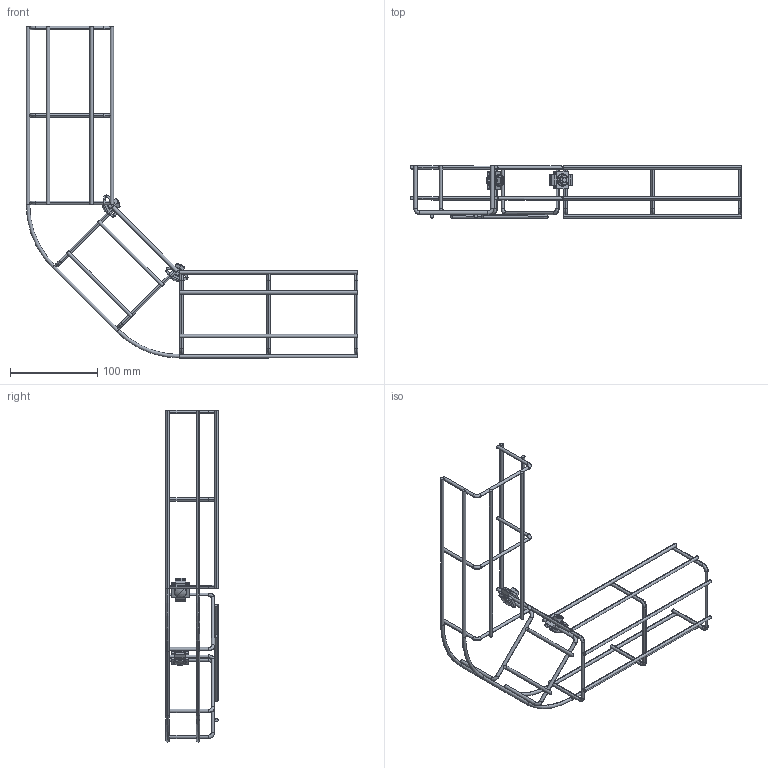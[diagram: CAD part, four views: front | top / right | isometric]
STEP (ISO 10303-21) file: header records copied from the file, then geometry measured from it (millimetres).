
FILE_DESCRIPTION (( 'STEP AP214' ), '1' );
FILE_NAME ('091-1.STEP', '2016-10-14T10:15:36', ( '' ), ( '' ), 'SwSTEP 2.0', 'SolidWorks 2016', '' );
FILE_SCHEMA (( 'AUTOMOTIVE_DESIGN' ));
Length unit declared in the file: millimetre
Products named in the file (15): 搿貗_300; 091-1; äíî 100.60; 搿貗_100; áîðò_¯®¢®à®â 3; 严宋20_耜钺郷憦嫀20; Ãàéêà ñ áóðòèêîì Ì6 DIN 6923; Âèíò Ì6-16 DIN 603_ISO 8678-M6x16-11-N; ﾑﾏﾋﾄ20_2 ｯｮｫｮｦ･ｭｨ･; 搿貗_200
Assembly tree (28 placements, depth 3):
  091-1
    搿貗_300
    搿貗_300
    äíî 100.60  x8
    áîðò_¯®¢®à®â 3
    áîðò_¯®¢®à®â 3
    搿貗_300
    搿貗_300
    搿貗_200  x4
    搿貗_100  x4
    ﾑﾏﾋﾄ20_2 ｯｮｫｮｦ･ｭｨ･  x2
      严宋20_耜钺郷憦嫀20
      Ãàéêà ñ áóðòèêîì Ì6 DIN 6923
      Âèíò Ì6-16 DIN 603_ISO 8678-M6x16-11-N
  äíî 100.60
Bounding box: 379.54 x 60 x 379.97 mm (x, y, z)
Volume: 68680.2 mm3; surface area: 69356.9 mm2
Topology: 30 solids, 30 shells, 452 faces, 966 edges, 560 vertices
Faces by surface type: plane 176, cylinder 148, torus 58, cone 38, bspline 28, sphere 4
Entity records: 5426 total; most frequent: CARTESIAN_POINT 1337, DIRECTION 793, ORIENTED_EDGE 678, EDGE_CURVE 339, AXIS2_PLACEMENT_3D 332, VERTEX_POINT 200, EDGE_LOOP 169, ADVANCED_FACE 164
